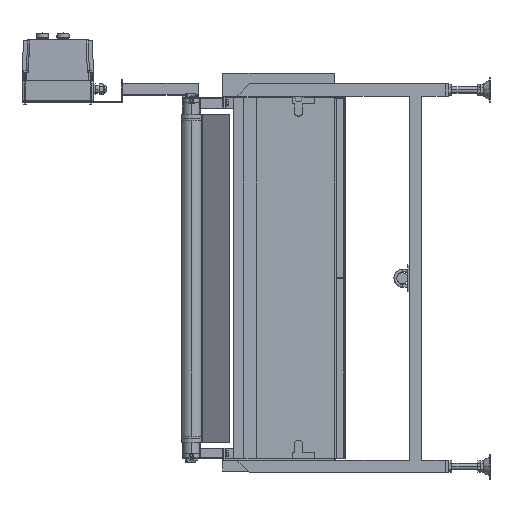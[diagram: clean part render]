
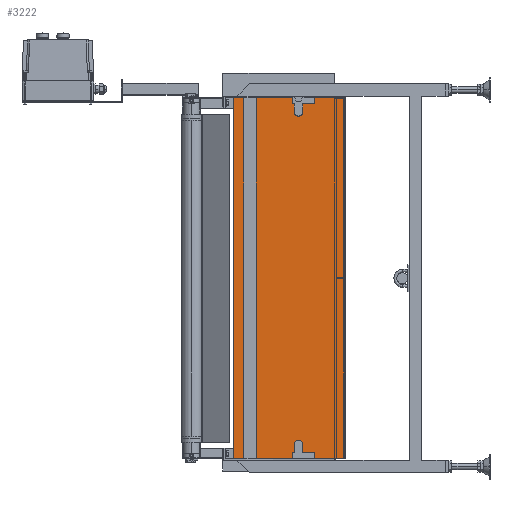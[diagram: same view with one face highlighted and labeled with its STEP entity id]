
A CAD part, left-side view. The second image highlights one B-rep face of the part: STEP entity #3222.
In plain terms, the highlighted planar face has unit normal (-1, 0, 0).
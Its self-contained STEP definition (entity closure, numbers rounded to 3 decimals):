
#3222=ADVANCED_FACE('',(#15014),#15013,.F.);
#15013=PLANE('',#29065);
#15014=FACE_OUTER_BOUND('',#29066,.T.);
#29062=CARTESIAN_POINT('',(498.5,-406.5,450.));
#29063=DIRECTION('',(1.,0.,0.));
#29064=DIRECTION('',(0.,0.,-1.));
#29065=AXIS2_PLACEMENT_3D('',#29062,#29063,#29064);
#29066=EDGE_LOOP('',(#38136,#38137,#38138,#38139,#38140,#38141,#38142,#38143,#38144,#38145,#38146,#38147,#38148,#38149,#38150,#38151,#38152,#38153,#38154,#38155));
#38136=ORIENTED_EDGE('',*,*,#44411,.T.);
#38137=ORIENTED_EDGE('',*,*,#44415,.T.);
#38138=ORIENTED_EDGE('',*,*,#44456,.T.);
#38139=ORIENTED_EDGE('',*,*,#44457,.T.);
#38140=ORIENTED_EDGE('',*,*,#44458,.T.);
#38141=ORIENTED_EDGE('',*,*,#44459,.T.);
#38142=ORIENTED_EDGE('',*,*,#44460,.T.);
#38143=ORIENTED_EDGE('',*,*,#44426,.F.);
#38144=ORIENTED_EDGE('',*,*,#44431,.F.);
#38145=ORIENTED_EDGE('',*,*,#44441,.F.);
#38146=ORIENTED_EDGE('',*,*,#44461,.F.);
#38147=ORIENTED_EDGE('',*,*,#44462,.F.);
#38148=ORIENTED_EDGE('',*,*,#44463,.F.);
#38149=ORIENTED_EDGE('',*,*,#44464,.F.);
#38150=ORIENTED_EDGE('',*,*,#44465,.F.);
#38151=ORIENTED_EDGE('',*,*,#44466,.F.);
#38152=ORIENTED_EDGE('',*,*,#44417,.F.);
#38153=ORIENTED_EDGE('',*,*,#44437,.F.);
#38154=ORIENTED_EDGE('',*,*,#44436,.F.);
#38155=ORIENTED_EDGE('',*,*,#44420,.F.);
#44411=EDGE_CURVE('',#63002,#62995,#63003,.T.);
#44415=EDGE_CURVE('',#62995,#63022,#63029,.T.);
#44417=EDGE_CURVE('',#63036,#63043,#63044,.T.);
#44420=EDGE_CURVE('',#63002,#63063,#63064,.T.);
#44426=EDGE_CURVE('',#63098,#63084,#63105,.T.);
#44431=EDGE_CURVE('',#63133,#63098,#63140,.T.);
#44436=EDGE_CURVE('',#63063,#63160,#63173,.T.);
#44437=EDGE_CURVE('',#63160,#63036,#63179,.T.);
#44441=EDGE_CURVE('',#63198,#63133,#63205,.T.);
#44456=EDGE_CURVE('',#63022,#63306,#63307,.T.);
#44457=EDGE_CURVE('',#63306,#63313,#63314,.T.);
#44458=EDGE_CURVE('',#63313,#63320,#63321,.T.);
#44459=EDGE_CURVE('',#63320,#63327,#63328,.T.);
#44460=EDGE_CURVE('',#63327,#63084,#63334,.T.);
#44461=EDGE_CURVE('',#63340,#63198,#63341,.T.);
#44462=EDGE_CURVE('',#63347,#63340,#63348,.T.);
#44463=EDGE_CURVE('',#63354,#63347,#63355,.T.);
#44464=EDGE_CURVE('',#63361,#63354,#63362,.T.);
#44465=EDGE_CURVE('',#63368,#63361,#63369,.T.);
#44466=EDGE_CURVE('',#63043,#63368,#63375,.T.);
#62995=VERTEX_POINT('',#85619);
#63002=VERTEX_POINT('',#85623);
#63003=LINE('',#85624,#85625);
#63022=VERTEX_POINT('',#85634);
#63029=LINE('',#85638,#85639);
#63036=VERTEX_POINT('',#85642);
#63043=VERTEX_POINT('',#85646);
#63044=LINE('',#85647,#85648);
#63063=VERTEX_POINT('',#85657);
#63064=LINE('',#85658,#85659);
#63084=VERTEX_POINT('',#85669);
#63098=VERTEX_POINT('',#85677);
#63105=LINE('',#85681,#85682);
#63133=VERTEX_POINT('',#85697);
#63140=LINE('',#85701,#85702);
#63160=VERTEX_POINT('',#85712);
#63173=LINE('',#85719,#85720);
#63179=LINE('',#85722,#85723);
#63198=VERTEX_POINT('',#85732);
#63205=LINE('',#85736,#85737);
#63306=VERTEX_POINT('',#85794);
#63307=LINE('',#85795,#85796);
#63313=VERTEX_POINT('',#85798);
#63314=CIRCLE('',#85802,10.);
#63320=VERTEX_POINT('',#85803);
#63321=LINE('',#85804,#85805);
#63327=VERTEX_POINT('',#85807);
#63328=LINE('',#85808,#85809);
#63334=LINE('',#85811,#85812);
#63340=VERTEX_POINT('',#85814);
#63341=LINE('',#85815,#85816);
#63347=VERTEX_POINT('',#85818);
#63348=LINE('',#85819,#85820);
#63354=VERTEX_POINT('',#85822);
#63355=LINE('',#85823,#85824);
#63361=VERTEX_POINT('',#85826);
#63362=CIRCLE('',#85830,10.);
#63368=VERTEX_POINT('',#85831);
#63369=LINE('',#85832,#85833);
#63375=LINE('',#85835,#85836);
#85619=CARTESIAN_POINT('',(498.5,-268.,-425.));
#85623=CARTESIAN_POINT('',(498.5,-268.,-440.));
#85624=CARTESIAN_POINT('',(498.5,-268.,-440.));
#85625=VECTOR('',#85626,15.);
#85626=DIRECTION('',(0.,0.,1.));
#85634=CARTESIAN_POINT('',(498.5,-273.,-425.));
#85638=CARTESIAN_POINT('',(498.5,-268.,-425.));
#85639=VECTOR('',#85640,5.);
#85640=DIRECTION('',(0.,-1.,0.));
#85642=CARTESIAN_POINT('',(498.5,-268.,440.));
#85646=CARTESIAN_POINT('',(498.5,-268.,425.));
#85647=CARTESIAN_POINT('',(498.5,-268.,440.));
#85648=VECTOR('',#85649,15.);
#85649=DIRECTION('',(0.,0.,-1.));
#85657=CARTESIAN_POINT('',(498.5,-125.,-440.));
#85658=CARTESIAN_POINT('',(498.5,-268.,-440.));
#85659=VECTOR('',#85660,143.);
#85660=DIRECTION('',(0.,1.,0.));
#85669=CARTESIAN_POINT('',(498.5,-323.,-440.));
#85677=CARTESIAN_POINT('',(498.5,-396.5,-440.));
#85681=CARTESIAN_POINT('',(498.5,-396.5,-440.));
#85682=VECTOR('',#85683,73.5);
#85683=DIRECTION('',(0.,1.,0.));
#85697=CARTESIAN_POINT('',(498.5,-396.5,440.));
#85701=CARTESIAN_POINT('',(498.5,-396.5,440.));
#85702=VECTOR('',#85703,880.);
#85703=DIRECTION('',(0.,0.,-1.));
#85712=CARTESIAN_POINT('',(498.5,-125.,440.));
#85719=CARTESIAN_POINT('',(498.5,-125.,-440.));
#85720=VECTOR('',#85721,880.);
#85721=DIRECTION('',(0.,0.,1.));
#85722=CARTESIAN_POINT('',(498.5,-125.,440.));
#85723=VECTOR('',#85724,143.);
#85724=DIRECTION('',(0.,-1.,0.));
#85732=CARTESIAN_POINT('',(498.5,-323.,440.));
#85736=CARTESIAN_POINT('',(498.5,-323.,440.));
#85737=VECTOR('',#85738,73.5);
#85738=DIRECTION('',(0.,-1.,0.));
#85794=CARTESIAN_POINT('',(498.5,-273.,-405.));
#85795=CARTESIAN_POINT('',(498.5,-273.,-425.));
#85796=VECTOR('',#85797,20.);
#85797=DIRECTION('',(0.,0.,1.));
#85798=CARTESIAN_POINT('',(498.5,-293.,-405.));
#85799=CARTESIAN_POINT('',(498.5,-283.,-405.));
#85800=DIRECTION('',(1.,0.,0.));
#85801=DIRECTION('',(0.,1.,0.));
#85802=AXIS2_PLACEMENT_3D('',#85799,#85800,#85801);
#85803=CARTESIAN_POINT('',(498.5,-293.,-425.));
#85804=CARTESIAN_POINT('',(498.5,-293.,-405.));
#85805=VECTOR('',#85806,20.);
#85806=DIRECTION('',(0.,0.,-1.));
#85807=CARTESIAN_POINT('',(498.5,-323.,-425.));
#85808=CARTESIAN_POINT('',(498.5,-293.,-425.));
#85809=VECTOR('',#85810,30.);
#85810=DIRECTION('',(0.,-1.,0.));
#85811=CARTESIAN_POINT('',(498.5,-323.,-425.));
#85812=VECTOR('',#85813,15.);
#85813=DIRECTION('',(0.,0.,-1.));
#85814=CARTESIAN_POINT('',(498.5,-323.,425.));
#85815=CARTESIAN_POINT('',(498.5,-323.,425.));
#85816=VECTOR('',#85817,15.);
#85817=DIRECTION('',(0.,0.,1.));
#85818=CARTESIAN_POINT('',(498.5,-293.,425.));
#85819=CARTESIAN_POINT('',(498.5,-293.,425.));
#85820=VECTOR('',#85821,30.);
#85821=DIRECTION('',(0.,-1.,0.));
#85822=CARTESIAN_POINT('',(498.5,-293.,405.));
#85823=CARTESIAN_POINT('',(498.5,-293.,405.));
#85824=VECTOR('',#85825,20.);
#85825=DIRECTION('',(0.,0.,1.));
#85826=CARTESIAN_POINT('',(498.5,-273.,405.));
#85827=CARTESIAN_POINT('',(498.5,-283.,405.));
#85828=DIRECTION('',(-1.,0.,0.));
#85829=DIRECTION('',(0.,1.,0.));
#85830=AXIS2_PLACEMENT_3D('',#85827,#85828,#85829);
#85831=CARTESIAN_POINT('',(498.5,-273.,425.));
#85832=CARTESIAN_POINT('',(498.5,-273.,425.));
#85833=VECTOR('',#85834,20.);
#85834=DIRECTION('',(0.,0.,-1.));
#85835=CARTESIAN_POINT('',(498.5,-268.,425.));
#85836=VECTOR('',#85837,5.);
#85837=DIRECTION('',(0.,-1.,0.));
